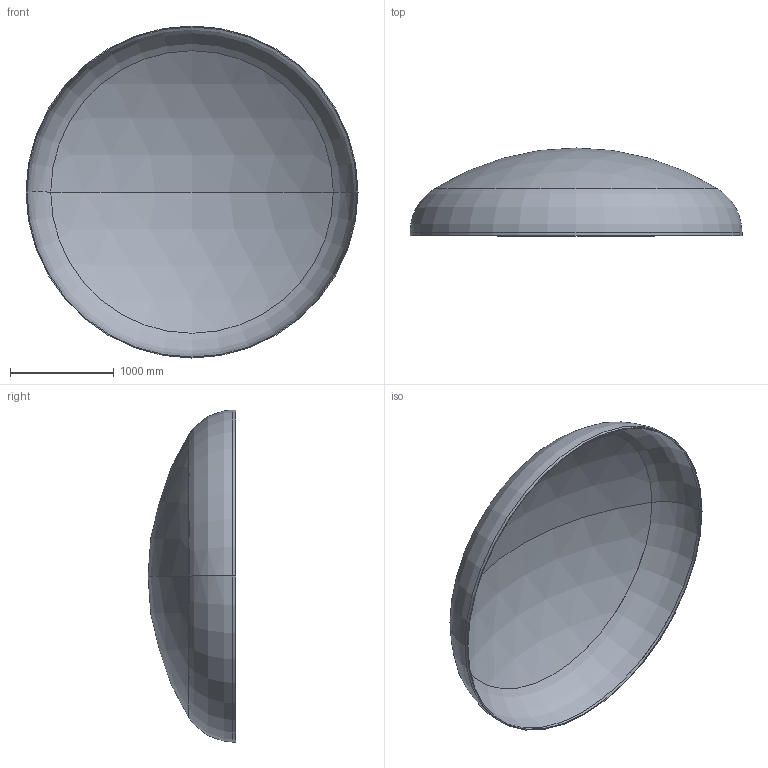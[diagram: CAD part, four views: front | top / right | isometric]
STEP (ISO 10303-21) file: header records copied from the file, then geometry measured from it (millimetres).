
FILE_DESCRIPTION (( 'STEP AP203' ), '1' );
FILE_NAME ('DIN 28013 Korbbogenform_-_Boden DIN 28013 - 3200 x 30 - I - s=9.step', '2016-07-01T18:17:19', ( '' ), ( '' ), 'SwSTEP 2.0', 'SolidWorks 2013', '' );
FILE_SCHEMA (( 'CONFIG_CONTROL_DESIGN' ));
Length unit declared in the file: millimetre
Products named in the file (1): DIN 28013 Korbbogenform_-_Boden DIN 28013 - 3200 x 30 - I - s=9
Bounding box: 3200 x 846.09 x 3200 mm (x, y, z)
Volume: 102480235.2 mm3; surface area: 22863769.3 mm2
Topology: 1 solids, 1 shells, 13 faces, 24 edges, 14 vertices
Faces by surface type: torus 4, cylinder 4, sphere 4, plane 1
Entity records: 407 total; most frequent: DIRECTION 72, CARTESIAN_POINT 52, ORIENTED_EDGE 48, AXIS2_PLACEMENT_3D 34, EDGE_CURVE 24, CIRCLE 20, EDGE_LOOP 14, VERTEX_POINT 14
